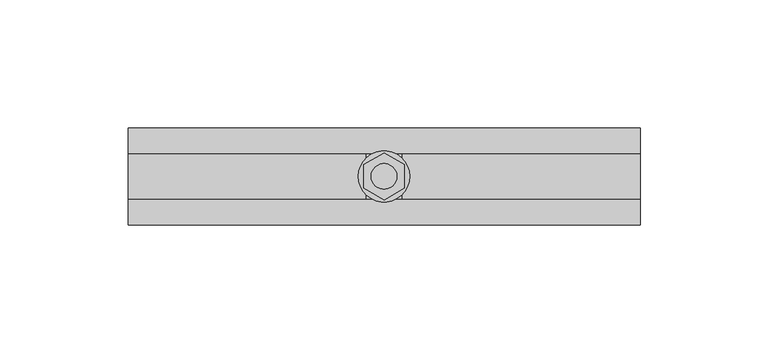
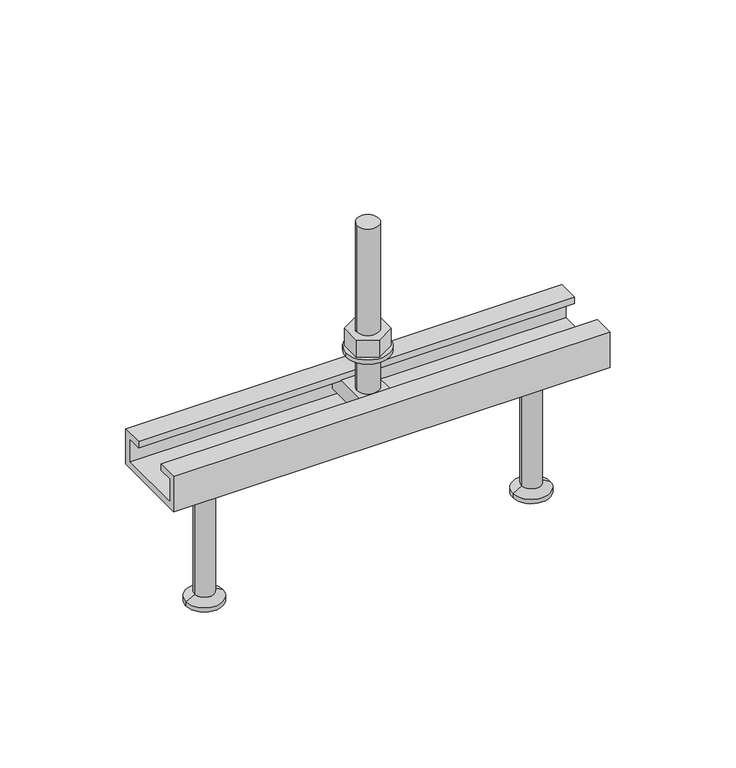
"""IFC4 building model written with IfcOpenShell, lengths in millimetres: fastener geometry, JTA-K JORDAHL® AnchorChannels : JTA-K L=200 mm."""

from ifc_helpers import new_model, si_unit, point, frame, frame_2d, origin, place, context, project, spatial, polyline, circle_curve, trimmed, segment, composite_curve, outline, extrude, source, transform, mapped, element, save
from ifc_brep_helpers import plane_surface, cylinder_surface, revolved_surface, advanced_brep


def fastener_7b0f8056(model_context):
    return source(origin(), model_context, "Body", "SolidModel", [
        extrude(outline(polyline([(100.0, 9.2376043), (108.0, 4.6188022), (108.0, -4.6188022), (100.0, -9.2376043), (92.0, -4.6188022), (92.0, 4.6188022), (100.0, 9.2376043)]), holes=[composite_curve([segment(trimmed(circle_curve(frame_2d((100.0, 0.0)), 5.0), [point((95.0, 0.0))], [point((105.0, 0.0))], True, "CARTESIAN"), True, "CONTINUOUS"), segment(trimmed(circle_curve(frame_2d((100.0, 0.0)), 5.0), [point((105.0, 0.0))], [point((95.0, 0.0))], True, "CARTESIAN"), True, "CONTINUOUS")], self_intersect=False)]), frame((0.0, 0.0, 17.0), z_axis=(0.0, 0.0, 1.0), x_axis=(1.0, 0.0, 0.0)), (0.0, 0.0, 1.0), 8.4),
        extrude(outline(composite_curve([segment(trimmed(circle_curve(frame_2d((100.0, 0.0)), 10.0), [point((90.0, 0.0))], [point((110.0, 0.0))], False, "CARTESIAN"), True, "CONTINUOUS"), segment(trimmed(circle_curve(frame_2d((100.0, 0.0)), 10.0), [point((110.0, 0.0))], [point((90.0, 0.0))], False, "CARTESIAN"), True, "CONTINUOUS")], self_intersect=False), holes=[composite_curve([segment(trimmed(circle_curve(frame_2d((100.0, 0.0)), 5.25), [point((94.75, 0.0))], [point((105.25, 0.0))], True, "CARTESIAN"), True, "CONTINUOUS"), segment(trimmed(circle_curve(frame_2d((100.0, 0.0)), 5.25), [point((105.25, 0.0))], [point((94.75, 0.0))], True, "CARTESIAN"), True, "CONTINUOUS")], self_intersect=False)]), frame((0.0, 0.0, 15.0), z_axis=(0.0, 0.0, 1.0), x_axis=(1.0, 0.0, 0.0)), (0.0, 0.0, 1.0), 2.0),
        advanced_brep(
        [(107.0, 16.0, -3.0), (107.0, -16.0, -3.0), (107.0, -16.0, -11.0), (107.0, 16.0, -11.0), (93.0, 16.0, -3.0), (93.0, 16.0, -11.0), (93.0, -16.0, -11.0), (93.0, -16.0, -3.0), (105.0, 0.0, -3.0), (95.0, 0.0, -3.0), (95.0, 0.0, 77.0), (105.0, 0.0, 77.0)],
        [
            (0, 1),
            (1, 2),
            (2, 3),
            (3, 0),
            (4, 5),
            (5, 6),
            (6, 7),
            (7, 4),
            (0, 4),
            (7, 1),
            (8, 9, circle_curve(frame((100.0, 0.0, -3.0), z_axis=(0.0, 0.0, -1.0), x_axis=(1.0, 0.0, 0.0)), 5.0)),
            (9, 8, circle_curve(frame((100.0, 0.0, -3.0), z_axis=(0.0, 0.0, -1.0), x_axis=(1.0, 0.0, 0.0)), 5.0)),
            (6, 2),
            (5, 3),
            (10, 11, circle_curve(frame((100.0, 0.0, 77.0), z_axis=(0.0, 0.0, 1.0), x_axis=(1.0, 0.0, 0.0)), 5.0)),
            (11, 10, circle_curve(frame((100.0, 0.0, 77.0), z_axis=(0.0, 0.0, 1.0), x_axis=(1.0, 0.0, 0.0)), 5.0)),
            (10, 9),
            (8, 11),
        ],
        [
            plane_surface(frame((107.0, -16.0, -3.0), z_axis=(1.0, 0.0, 0.0), x_axis=(0.0, -1.0, 0.0))),
            plane_surface(frame((93.0, -16.0, -3.0), z_axis=(-1.0, 0.0, 0.0), x_axis=(0.0, 1.0, 0.0))),
            plane_surface(frame((107.0, 16.0, -3.0), z_axis=(0.0, 0.0, 1.0), x_axis=(-1.0, 0.0, 0.0))),
            plane_surface(frame((107.0, -16.0, -3.0), z_axis=(0.0, -1.0, 0.0), x_axis=(-1.0, 0.0, 0.0))),
            plane_surface(frame((107.0, -16.0, -11.0), z_axis=(0.0, 0.0, -1.0), x_axis=(-1.0, 0.0, 0.0))),
            plane_surface(frame((107.0, 16.0, -11.0), z_axis=(0.0, 1.0, 0.0), x_axis=(-1.0, 0.0, 0.0))),
            plane_surface(frame((105.0, 0.0, 77.0), z_axis=(0.0, 0.0, 1.0), x_axis=(0.0, 1.0, 0.0))),
            cylinder_surface(frame((100.0, 0.0, -3.0), z_axis=(0.0, 0.0, 1.0), x_axis=(1.0, 0.0, 0.0)), 5.0),
        ],
        [
            (0, [[1, 2, 3, 4]]),
            (1, [[5, 6, 7, 8]]),
            (2, [[-1, 9, -8, 10], [11, 12]]),
            (3, [[-2, -10, -7, 13]]),
            (4, [[-3, -13, -6, 14]]),
            (5, [[-4, -14, -5, -9]]),
            (6, [[15, 16]]),
            (7, [[-15, 17, -11, 18]]),
            (7, [[-16, -18, -12, -17]]),
        ],
    ),
        advanced_brep(
        [(175.0, 0.0, -17.0), (188.5, 0.0, -17.0), (161.5, 0.0, -17.0), (166.5, 0.0, -80.0), (183.5, 0.0, -80.0), (175.0, 0.0, -80.0), (166.5, 0.0, -78.0), (183.5, 0.0, -78.0), (170.5, 0.0, -75.6905989), (179.5, 0.0, -75.6905989), (170.5, 0.0, -19.5), (179.5, 0.0, -19.5)],
        [
            (0, 1),
            (1, 2, circle_curve(frame((175.0, 0.0, -17.0), z_axis=(0.0, 0.0, 1.0), x_axis=(1.0, 0.0, 0.0)), 13.5)),
            (2, 0),
            (2, 1, circle_curve(frame((175.0, 0.0, -17.0), z_axis=(0.0, 0.0, 1.0), x_axis=(1.0, 0.0, 0.0)), 13.5)),
            (3, 4, circle_curve(frame((175.0, 0.0, -80.0), z_axis=(0.0, 0.0, -1.0), x_axis=(1.0, 0.0, 0.0)), 8.5)),
            (4, 5),
            (5, 3),
            (4, 3, circle_curve(frame((175.0, 0.0, -80.0), z_axis=(0.0, 0.0, -1.0), x_axis=(1.0, 0.0, 0.0)), 8.5)),
            (6, 7, circle_curve(frame((175.0, 0.0, -78.0), z_axis=(0.0, 0.0, -1.0), x_axis=(1.0, 0.0, 0.0)), 8.5)),
            (7, 4),
            (3, 6),
            (7, 6, circle_curve(frame((175.0, 0.0, -78.0), z_axis=(0.0, 0.0, -1.0), x_axis=(1.0, 0.0, 0.0)), 8.5)),
            (8, 9, circle_curve(frame((175.0, 0.0, -75.6905989), z_axis=(0.0, 0.0, -1.0), x_axis=(1.0, 0.0, 0.0)), 4.5)),
            (9, 7),
            (6, 8),
            (9, 8, circle_curve(frame((175.0, 0.0, -75.6905989), z_axis=(0.0, 0.0, -1.0), x_axis=(1.0, 0.0, 0.0)), 4.5)),
            (10, 11, circle_curve(frame((175.0, 0.0, -19.5), z_axis=(0.0, 0.0, -1.0), x_axis=(1.0, 0.0, 0.0)), 4.5)),
            (11, 9),
            (8, 10),
            (11, 10, circle_curve(frame((175.0, 0.0, -19.5), z_axis=(0.0, 0.0, -1.0), x_axis=(1.0, 0.0, 0.0)), 4.5)),
            (1, 11),
            (10, 2),
        ],
        [
            plane_surface(frame((175.0, 0.0, -17.0), z_axis=(0.0, 0.0, 1.0), x_axis=(1.0, 0.0, 0.0))),
            plane_surface(frame((175.0, 0.0, -80.0), z_axis=(0.0, 0.0, -1.0), x_axis=(1.0, 0.0, 0.0))),
            cylinder_surface(frame((175.0, 0.0, 2277.3150031), z_axis=(0.0, 0.0, 1.0), x_axis=(1.0, 0.0, 0.0)), 8.5),
            revolved_surface(polyline([(183.5, 0.0, -78.0), (179.5, 0.0, -75.6905989)]), (175.0, 0.0, 2277.3150031), (0.0, 0.0, 1.0)),
            cylinder_surface(frame((175.0, 0.0, 2277.3150031), z_axis=(0.0, 0.0, 1.0), x_axis=(1.0, 0.0, 0.0)), 4.5),
            revolved_surface(polyline([(179.5, 0.0, -19.5), (188.5, 0.0, -17.0)]), (175.0, 0.0, 2277.3150031), (0.0, 0.0, 1.0)),
        ],
        [
            (0, [[1, 2, 3]]),
            (0, [[-3, 4, -1]]),
            (1, [[5, 6, 7]]),
            (1, [[8, -7, -6]]),
            (2, [[9, 10, -5, 11]]),
            (2, [[12, -11, -8, -10]]),
            (3, [[13, 14, -9, 15]]),
            (3, [[16, -15, -12, -14]]),
            (4, [[17, 18, -13, 19]]),
            (4, [[20, -19, -16, -18]]),
            (5, [[-2, 21, -17, 22]]),
            (5, [[-4, -22, -20, -21]]),
        ],
    ),
        advanced_brep(
        [(25.0, 0.0, -17.0), (38.5, 0.0, -17.0), (11.5, 0.0, -17.0), (16.5, 0.0, -80.0), (33.5, 0.0, -80.0), (25.0, 0.0, -80.0), (16.5, 0.0, -78.0), (33.5, 0.0, -78.0), (20.5, 0.0, -75.6905989), (29.5, 0.0, -75.6905989), (20.5, 0.0, -19.5), (29.5, 0.0, -19.5)],
        [
            (0, 1),
            (1, 2, circle_curve(frame((25.0, 0.0, -17.0), z_axis=(0.0, 0.0, 1.0), x_axis=(1.0, 0.0, 0.0)), 13.5)),
            (2, 0),
            (2, 1, circle_curve(frame((25.0, 0.0, -17.0), z_axis=(0.0, 0.0, 1.0), x_axis=(1.0, 0.0, 0.0)), 13.5)),
            (3, 4, circle_curve(frame((25.0, 0.0, -80.0), z_axis=(0.0, 0.0, -1.0), x_axis=(1.0, 0.0, 0.0)), 8.5)),
            (4, 5),
            (5, 3),
            (4, 3, circle_curve(frame((25.0, 0.0, -80.0), z_axis=(0.0, 0.0, -1.0), x_axis=(1.0, 0.0, 0.0)), 8.5)),
            (6, 7, circle_curve(frame((25.0, 0.0, -78.0), z_axis=(0.0, 0.0, -1.0), x_axis=(1.0, 0.0, 0.0)), 8.5)),
            (7, 4),
            (3, 6),
            (7, 6, circle_curve(frame((25.0, 0.0, -78.0), z_axis=(0.0, 0.0, -1.0), x_axis=(1.0, 0.0, 0.0)), 8.5)),
            (8, 9, circle_curve(frame((25.0, 0.0, -75.6905989), z_axis=(0.0, 0.0, -1.0), x_axis=(1.0, 0.0, 0.0)), 4.5)),
            (9, 7),
            (6, 8),
            (9, 8, circle_curve(frame((25.0, 0.0, -75.6905989), z_axis=(0.0, 0.0, -1.0), x_axis=(1.0, 0.0, 0.0)), 4.5)),
            (10, 11, circle_curve(frame((25.0, 0.0, -19.5), z_axis=(0.0, 0.0, -1.0), x_axis=(1.0, 0.0, 0.0)), 4.5)),
            (11, 9),
            (8, 10),
            (11, 10, circle_curve(frame((25.0, 0.0, -19.5), z_axis=(0.0, 0.0, -1.0), x_axis=(1.0, 0.0, 0.0)), 4.5)),
            (1, 11),
            (10, 2),
        ],
        [
            plane_surface(frame((25.0, 0.0, -17.0), z_axis=(0.0, 0.0, 1.0), x_axis=(1.0, 0.0, 0.0))),
            plane_surface(frame((25.0, 0.0, -80.0), z_axis=(0.0, 0.0, -1.0), x_axis=(1.0, 0.0, 0.0))),
            cylinder_surface(frame((25.0, 0.0, 2277.3150031), z_axis=(0.0, 0.0, 1.0), x_axis=(1.0, 0.0, 0.0)), 8.5),
            revolved_surface(polyline([(33.5, 0.0, -78.0), (29.5, 0.0, -75.6905989)]), (25.0, 0.0, 2277.3150031), (0.0, 0.0, 1.0)),
            cylinder_surface(frame((25.0, 0.0, 2277.3150031), z_axis=(0.0, 0.0, 1.0), x_axis=(1.0, 0.0, 0.0)), 4.5),
            revolved_surface(polyline([(29.5, 0.0, -19.5), (38.5, 0.0, -17.0)]), (25.0, 0.0, 2277.3150031), (0.0, 0.0, 1.0)),
        ],
        [
            (0, [[1, 2, 3]]),
            (0, [[-3, 4, -1]]),
            (1, [[5, 6, 7]]),
            (1, [[8, -7, -6]]),
            (2, [[9, 10, -5, 11]]),
            (2, [[12, -11, -8, -10]]),
            (3, [[13, 14, -9, 15]]),
            (3, [[16, -15, -12, -14]]),
            (4, [[17, 18, -13, 19]]),
            (4, [[20, -19, -16, -18]]),
            (5, [[-2, 21, -17, 22]]),
            (5, [[-4, -22, -20, -21]]),
        ],
    ),
        extrude(outline(polyline([(19.0, 0.0), (19.0, -17.0), (-19.0, -17.0), (-19.0, 0.0), (-9.0, 0.0), (-9.0, -3.0), (-16.0, -3.0), (-16.0, -14.0), (16.0, -14.0), (16.0, -3.0), (9.0, -3.0), (9.0, 0.0), (19.0, 0.0)])), frame((0.0, 0.0, 0.0), z_axis=(1.0, 0.0, 0.0), x_axis=(0.0, 1.0, 0.0)), (0.0, 0.0, 1.0), 200.0),
    ])


if __name__ == "__main__":
    model = new_model("IFC4")
    model_context = context("Model", 3, world=origin())
    ifc_project = project(units=[si_unit("LENGTHUNIT", "METRE", prefix="MILLI")], contexts=[model_context])
    site = spatial("IfcSite", under=ifc_project)
    building = spatial("IfcBuilding", under=site)
    placement = place(None, origin())
    fastener_shape = fastener_7b0f8056(model_context)
    element("IfcFastener", 1, ObjectType="JTA-K JORDAHL® AnchorChannels : JTA-K L=200 mm", at=placement, inside=building, context=model_context, shape_type="MappedRepresentation", body=[
        mapped(fastener_shape, transform((0.0, 0.0, 0.0), x_axis=(1.0, 0.0, 0.0), y_axis=(0.0, 1.0, 0.0), z_axis=(0.0, 0.0, 1.0))),
    ])
    save(model, "model.ifc")
